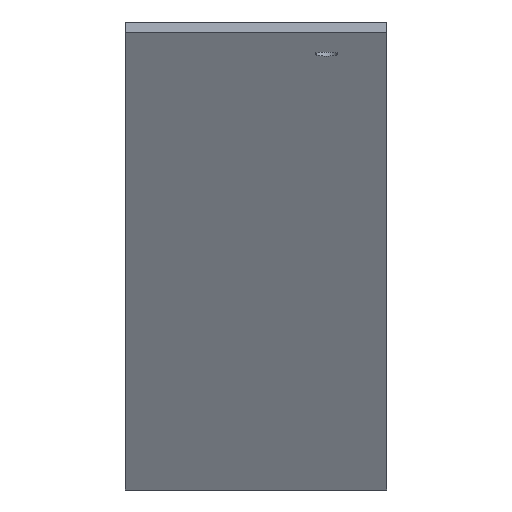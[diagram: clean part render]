
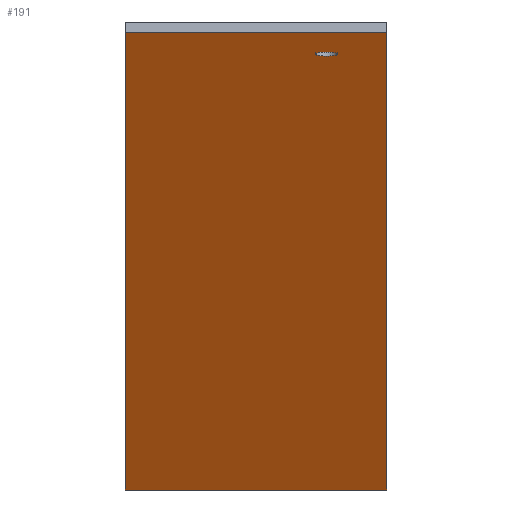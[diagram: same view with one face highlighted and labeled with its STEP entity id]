
A CAD part, top view. The second image highlights one B-rep face of the part: STEP entity #191.
In plain terms, the highlighted planar face has unit normal (0, -0.985, 0.174).
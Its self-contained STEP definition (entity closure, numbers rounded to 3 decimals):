
#37=CARTESIAN_POINT('',(-284.5,-128.527,207.769));
#38=VERTEX_POINT('',#37);
#45=CARTESIAN_POINT('',(-432.5,-128.527,207.769));
#46=VERTEX_POINT('',#45);
#47=CARTESIAN_POINT('',(-432.5,-128.527,207.769));
#48=DIRECTION('',(1.0,0.0,0.0));
#49=VECTOR('',#48,1.);
#50=LINE('',#47,#49);
#51=EDGE_CURVE('',#46,#38,#50,.T.);
#75=CARTESIAN_POINT('',(-284.5,128.125,1663.314));
#76=VERTEX_POINT('',#75);
#83=CARTESIAN_POINT('',(-284.5,-128.527,207.769));
#84=DIRECTION('',(0.,0.174,0.985));
#85=VECTOR('',#84,1.);
#86=LINE('',#83,#85);
#87=EDGE_CURVE('',#38,#76,#86,.T.);
#106=CARTESIAN_POINT('',(-432.5,128.125,1663.314));
#107=VERTEX_POINT('',#106);
#114=CARTESIAN_POINT('',(-284.5,128.125,1663.314));
#115=DIRECTION('',(-1.0,0.,0.));
#116=VECTOR('',#115,1.);
#117=LINE('',#114,#116);
#118=EDGE_CURVE('',#76,#107,#117,.T.);
#136=CARTESIAN_POINT('',(-432.5,128.125,1663.314));
#137=DIRECTION('',(0.,-0.174,-0.985));
#138=VECTOR('',#137,1.);
#139=LINE('',#136,#138);
#140=EDGE_CURVE('',#107,#46,#139,.T.);
#169=CARTESIAN_POINT('',(-432.5,-128.527,207.769));
#170=DIRECTION('',(0.0,-0.985,0.174));
#171=DIRECTION('',(1.0,0.0,0.0));
#172=AXIS2_PLACEMENT_3D('',#169,#170,#171);
#173=PLANE('',#172);
#174=ORIENTED_EDGE('',*,*,#51,.T.);
#175=ORIENTED_EDGE('',*,*,#87,.T.);
#176=ORIENTED_EDGE('',*,*,#118,.T.);
#177=ORIENTED_EDGE('',*,*,#140,.T.);
#178=EDGE_LOOP('',(#174,#175,#176,#177));
#179=FACE_OUTER_BOUND('',#178,.T.);
#180=CARTESIAN_POINT('',(-312.2,115.97,1594.378));
#181=VERTEX_POINT('',#180);
#182=CARTESIAN_POINT('',(-318.5,115.97,1594.378));
#183=DIRECTION('',(0.0,0.985,-0.174));
#184=DIRECTION('',(1.0,0.0,0.0));
#185=AXIS2_PLACEMENT_3D('',#182,#183,#184);
#186=CIRCLE('',#185,6.3);
#187=EDGE_CURVE('',#181,#181,#186,.T.);
#188=ORIENTED_EDGE('',*,*,#187,.T.);
#189=EDGE_LOOP('',(#188));
#190=FACE_BOUND('',#189,.T.);
#191=ADVANCED_FACE('',(#179,#190),#173,.T.);
